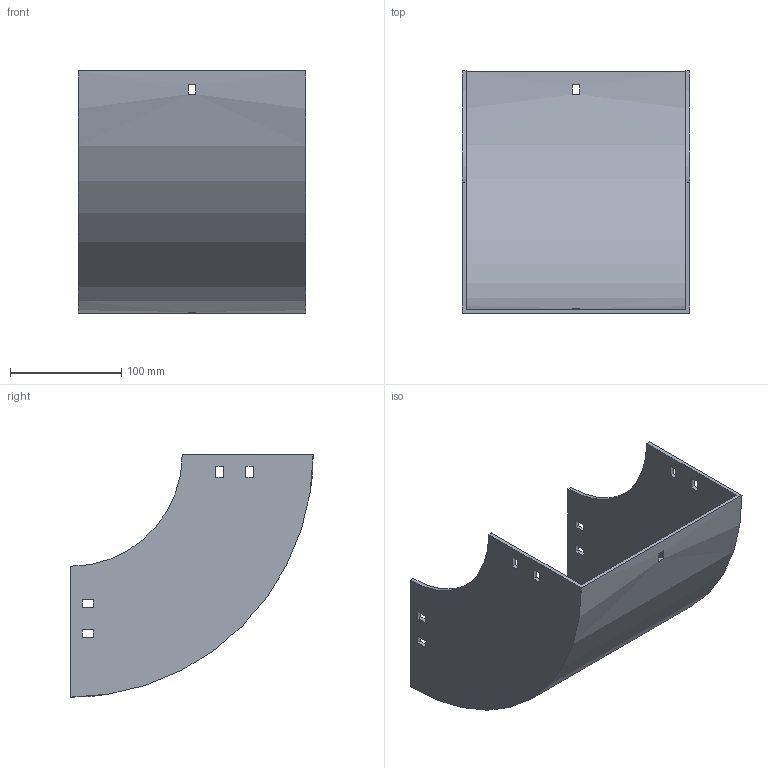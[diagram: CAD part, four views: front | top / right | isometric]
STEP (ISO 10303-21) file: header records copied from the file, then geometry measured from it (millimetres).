
FILE_DESCRIPTION (( 'STEP AP214' ), '1' );
FILE_NAME ('30B1J200.step', '2025-02-21T09:49:02', ( '' ), ( '' ), 'SwSTEP 2.0', 'SolidWorks 2023', '' );
FILE_SCHEMA (( 'AUTOMOTIVE_DESIGN' ));
Length unit declared in the file: millimetre
Products named in the file (1): 30B1J200
Bounding box: 204 x 217.5 x 217.5 mm (x, y, z)
Volume: 436402.2 mm3; surface area: 254685.1 mm2
Topology: 1 solids, 1 shells, 50 faces, 144 edges, 96 vertices
Faces by surface type: plane 46, cylinder 4
Entity records: 1687 total; most frequent: CARTESIAN_POINT 291, ORIENTED_EDGE 288, DIRECTION 262, EDGE_CURVE 144, VECTOR 128, LINE 128, VERTEX_POINT 96, EDGE_LOOP 70
